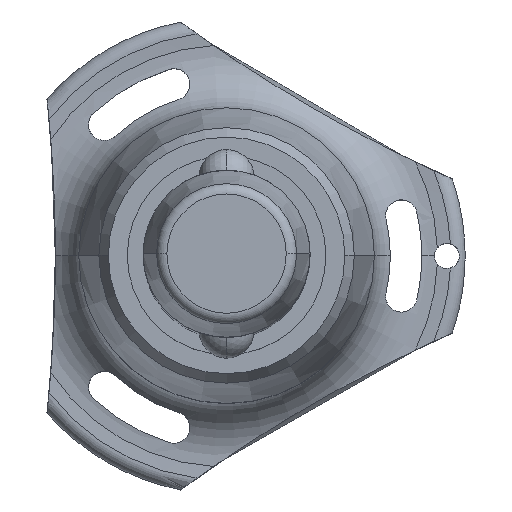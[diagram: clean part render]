
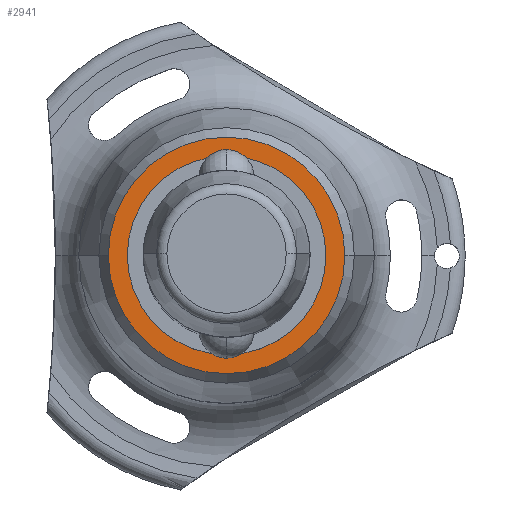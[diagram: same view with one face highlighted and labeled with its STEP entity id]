
A CAD part, top view. The second image highlights one B-rep face of the part: STEP entity #2941.
In plain terms, the highlighted planar face has unit normal (0, 0, 1).
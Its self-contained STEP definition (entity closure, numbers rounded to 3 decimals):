
#31 = EDGE_CURVE ( 'NONE', #2404, #2216, #981, .T. ) ;
#161 = DIRECTION ( 'NONE',  ( 0., 0., -1. ) ) ;
#169 = DIRECTION ( 'NONE',  ( -1., 0., 0. ) ) ;
#202 = DIRECTION ( 'NONE',  ( 0., 0., -1. ) ) ;
#205 = DIRECTION ( 'NONE',  ( -1., 0., 0. ) ) ;
#223 = DIRECTION ( 'NONE',  ( 0., 0., 1. ) ) ;
#369 = AXIS2_PLACEMENT_3D ( 'NONE', #676, #161, #2708 ) ;
#472 = CIRCLE ( 'NONE', #369, 14.154 ) ;
#676 = CARTESIAN_POINT ( 'NONE',  ( 0., 0., -101.25 ) ) ;
#734 = ORIENTED_EDGE ( 'NONE', *, *, #2407, .F. ) ;
#746 = ORIENTED_EDGE ( 'NONE', *, *, #1453, .T. ) ;
#763 = EDGE_CURVE ( 'NONE', #2220, #2887, #472, .T. ) ;
#972 = EDGE_LOOP ( 'NONE', ( #1114, #746 ) ) ;
#981 = CIRCLE ( 'NONE', #1399, 11.889 ) ;
#1024 = DIRECTION ( 'NONE',  ( 0., 0., -1. ) ) ;
#1092 = CARTESIAN_POINT ( 'NONE',  ( -14.154, 0., -101.25 ) ) ;
#1114 = ORIENTED_EDGE ( 'NONE', *, *, #31, .T. ) ;
#1217 = CARTESIAN_POINT ( 'NONE',  ( 0., 0., -101.25 ) ) ;
#1288 = DIRECTION ( 'NONE',  ( 0., 0., -1. ) ) ;
#1312 = PLANE ( 'NONE',  #2378 ) ;
#1399 = AXIS2_PLACEMENT_3D ( 'NONE', #1217, #1024, #2807 ) ;
#1417 = CIRCLE ( 'NONE', #2570, 14.154 ) ;
#1453 = EDGE_CURVE ( 'NONE', #2216, #2404, #2138, .T. ) ;
#1504 = CARTESIAN_POINT ( 'NONE',  ( 11.889, 0., -101.25 ) ) ;
#1538 = CARTESIAN_POINT ( 'NONE',  ( -11.889, 0., -101.25 ) ) ;
#1600 = AXIS2_PLACEMENT_3D ( 'NONE', #1972, #1288, #205 ) ;
#1734 = ORIENTED_EDGE ( 'NONE', *, *, #763, .F. ) ;
#1800 = CARTESIAN_POINT ( 'NONE',  ( 0., 11.889, -101.25 ) ) ;
#1972 = CARTESIAN_POINT ( 'NONE',  ( 0., 0., -101.25 ) ) ;
#1981 = FACE_OUTER_BOUND ( 'NONE', #2397, .T. ) ;
#2029 = FACE_BOUND ( 'NONE', #972, .T. ) ;
#2138 = CIRCLE ( 'NONE', #1600, 11.889 ) ;
#2216 = VERTEX_POINT ( 'NONE', #1504 ) ;
#2220 = VERTEX_POINT ( 'NONE', #2424 ) ;
#2378 = AXIS2_PLACEMENT_3D ( 'NONE', #1800, #223, #2933 ) ;
#2397 = EDGE_LOOP ( 'NONE', ( #734, #1734 ) ) ;
#2404 = VERTEX_POINT ( 'NONE', #1538 ) ;
#2407 = EDGE_CURVE ( 'NONE', #2887, #2220, #1417, .T. ) ;
#2424 = CARTESIAN_POINT ( 'NONE',  ( 14.154, 0., -101.25 ) ) ;
#2460 = CARTESIAN_POINT ( 'NONE',  ( 0., 0., -101.25 ) ) ;
#2570 = AXIS2_PLACEMENT_3D ( 'NONE', #2460, #202, #169 ) ;
#2708 = DIRECTION ( 'NONE',  ( -1., 0., 0. ) ) ;
#2807 = DIRECTION ( 'NONE',  ( -1., 0., 0. ) ) ;
#2887 = VERTEX_POINT ( 'NONE', #1092 ) ;
#2933 = DIRECTION ( 'NONE',  ( 1., 0., 0. ) ) ;
#2941 = ADVANCED_FACE ( 'NONE', ( #2029, #1981 ), #1312, .T. ) ;
